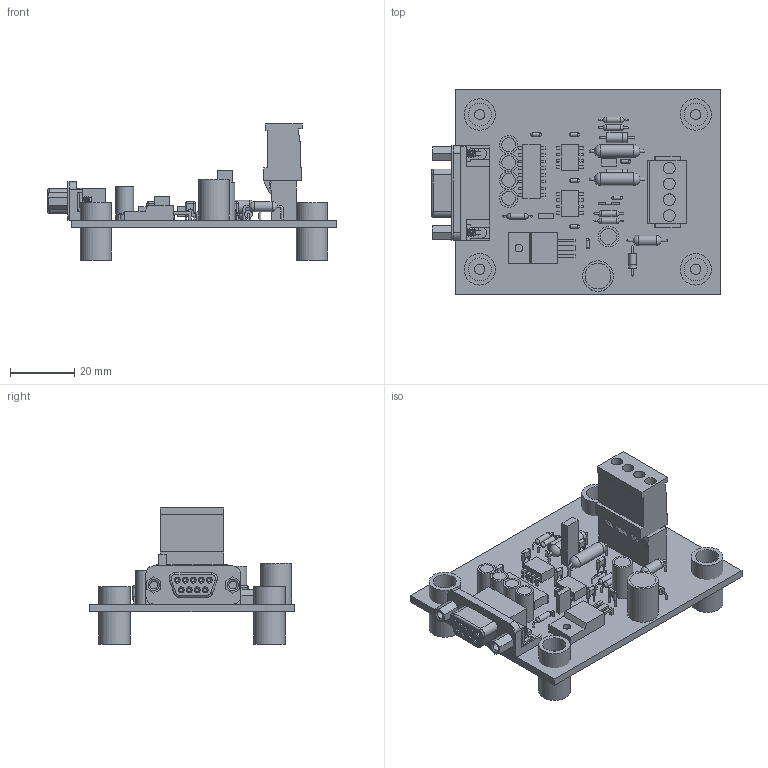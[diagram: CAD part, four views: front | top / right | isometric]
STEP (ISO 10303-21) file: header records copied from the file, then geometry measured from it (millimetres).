
FILE_DESCRIPTION((' '),'2;1');
FILE_NAME('C:\Users\mschreiber\Desktop\MCS-485-GATEWAY (2014-12-02).stp','2014-12-02T17:03:28',(' '),(' '),' ','ACIS',' ');
FILE_SCHEMA(('CONFIG_CONTROL_DESIGN'));
Length unit declared in the file: millimetre
Products named in the file (99): C:\Users\mschreiber\Desktop\MCS-485-GATEWAY (2014-12-02).stp; Body1; Body2; Body3; Body4; Body5; Body6; Body7; Body8; Body9; Body10; Body11; Body12; Body13; Body14; Body15; Body16; Body17; Body18; Body19; Body20; Body21; Body22; Body23; Body24; Body25; Body26; Body27; Body28; Body29; Body30; Body31; Body32; Body33; Body34; Body35; Body36; Body37; Body38; Body39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
Assembly tree (98 placements, depth 2):
  C:\Users\mschreiber\Desktop\MCS-485-GATEWAY (2014-12-02).stp
    Body1
    Body2
    Body3
    Body4
    Body5
    Body6
    Body7
    Body8
    Body9
    Body10
    Body11
    Body12
    Body13
    Body14
    Body15
    Body16
    Body17
    Body18
    Body19
    Body20
    Body21
    Body22
    Body23
    Body24
    Body25
    Body26
    Body27
    Body28
    Body29
    Body30
    Body31
    Body32
    Body33
    Body34
    Body35
    Body36
    Body37
    Body38
    Body39
    Body40
    Body41
    Body42
    Body43
    Body44
    Body45
    Body46
    Body47
    Body48
    Body49
    Body50
    Body51
    Body52
    Body53
    Body54
    Body55
    Body56
    Body57
    Body58
    Body59
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Bounding box: 90.04 x 63.63 x 42.43 mm (x, y, z)
Volume: 29322.9 mm3; surface area: 30542.3 mm2
Topology: 98 solids, 98 shells, 1032 faces, 2389 edges, 1570 vertices
Faces by surface type: plane 777, cylinder 144, bspline 46, sphere 32, cone 29, torus 4
Full cylindrical faces by diameter (mm): 0.485 x14, 0.75 x1, 1.091 x9, 1.778 x5, 2.181 x2, 2.386 x3, 2.424 x2, 3.181 x7, 3.636 x8, 3.977 x2, 4.295 x8, 5.09 x2, 5.567 x4, 6.363 x1, 7.158 x8, 8.017 x2, 9.544 x1, 9.779 x4
Entity records: 54093 total; most frequent: CARTESIAN_POINT 17725, DIRECTION 4719, ORIENTED_EDGE 4314, EDGE_CURVE 2157, VECTOR 1613, LINE 1613, AXIS2_PLACEMENT_3D 1553, VERTEX_POINT 1475
